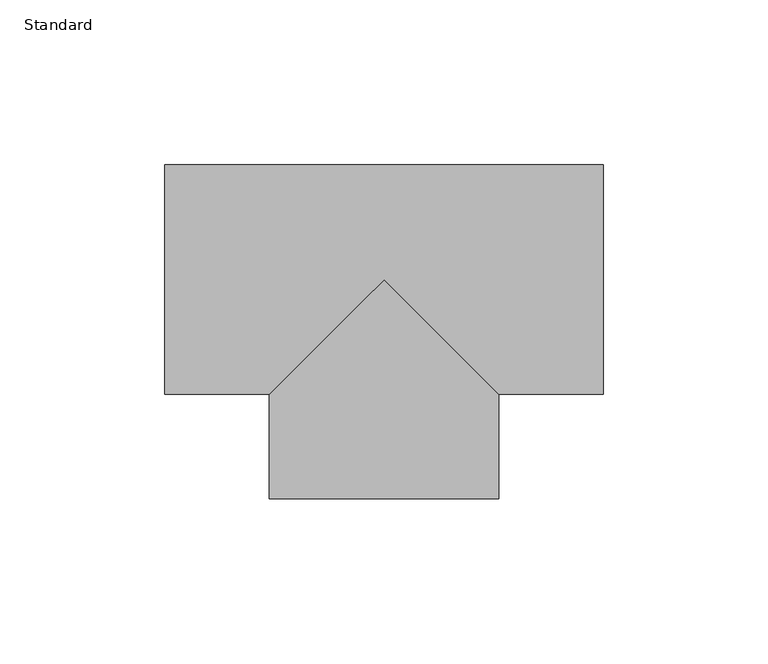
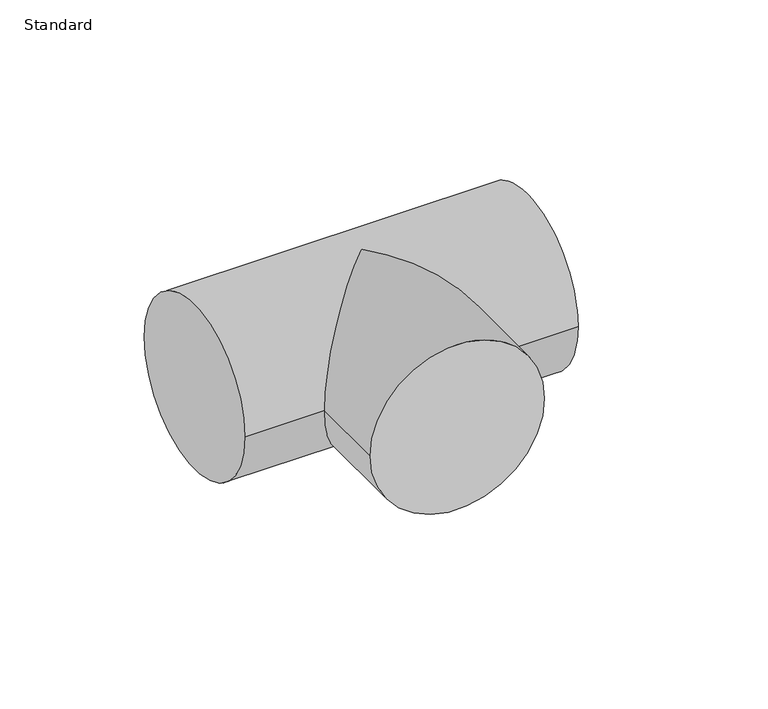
"""IFC4 building model written with IfcOpenShell, lengths in millimetres: pipe fitting geometry, M_Tee - CPVC - Sch 40 : Standard."""

from ifc_helpers import new_model, si_unit, frame, origin, place, context, project, spatial, circle_curve, ellipse_curve, source, transform, mapped, element, save
from ifc_brep_helpers import plane_surface, cylinder_surface, advanced_brep


def standard_cd25fed3(model_context):
    return source(origin(), model_context, "Body", "AdvancedBrep", [
        advanced_brep(
        [(-66.675, -34.925, 0.0), (-66.675, 34.925, 0.0), (66.675, -34.925, 0.0), (66.675, 34.925, 0.0), (-34.925, -34.925, 0.0), (0.0, 0.0, 34.925), (34.925, -34.925, 0.0), (0.0, 0.0, -34.925), (-34.925, -66.675, 0.0), (34.925, -66.675, 0.0)],
        [
            (0, 1, circle_curve(frame((-66.675, 0.0, 0.0), z_axis=(-1.0, 0.0, 0.0), x_axis=(0.0, 1.0, 0.0)), 34.925)),
            (1, 0, circle_curve(frame((-66.675, 0.0, 0.0), z_axis=(-1.0, 0.0, 0.0), x_axis=(0.0, 1.0, 0.0)), 34.925)),
            (2, 3, circle_curve(frame((66.675, 0.0, 0.0), z_axis=(1.0, 0.0, 0.0), x_axis=(0.0, 1.0, 0.0)), 34.925)),
            (3, 2, circle_curve(frame((66.675, 0.0, 0.0), z_axis=(1.0, 0.0, 0.0), x_axis=(0.0, 1.0, 0.0)), 34.925)),
            (0, 4),
            (4, 5, ellipse_curve(frame((0.0, 0.0, 0.0), z_axis=(-0.7071067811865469, 0.7071067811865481, 0.0), x_axis=(-0.707106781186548, -0.7071067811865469, 0.0)), 49.3914087, 34.925)),
            (5, 6, ellipse_curve(frame((0.0, 0.0, 0.0), z_axis=(0.707106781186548, 0.7071067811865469, 0.0), x_axis=(-0.707106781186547, 0.707106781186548, 0.0)), 49.3914087, 34.925)),
            (6, 2),
            (3, 1),
            (6, 7, ellipse_curve(frame((0.0, 0.0, 0.0), z_axis=(0.707106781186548, 0.7071067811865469, 0.0), x_axis=(-0.707106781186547, 0.707106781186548, 0.0)), 49.3914087, 34.925)),
            (7, 4, ellipse_curve(frame((0.0, 0.0, 0.0), z_axis=(-0.7071067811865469, 0.7071067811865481, 0.0), x_axis=(-0.707106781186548, -0.7071067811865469, 0.0)), 49.3914087, 34.925)),
            (8, 9, circle_curve(frame((0.0, -66.675, 0.0), z_axis=(0.0, -1.0, 0.0), x_axis=(1.0, 0.0, 0.0)), 34.925)),
            (9, 8, circle_curve(frame((0.0, -66.675, 0.0), z_axis=(0.0, -1.0, 0.0), x_axis=(1.0, 0.0, 0.0)), 34.925)),
            (9, 6),
            (4, 8),
        ],
        [
            plane_surface(frame((-66.675, 0.0, 0.0), z_axis=(-1.0, 0.0, 0.0), x_axis=(0.0, 0.0, 1.0))),
            plane_surface(frame((66.675, 0.0, 0.0), z_axis=(1.0, 0.0, 0.0), x_axis=(0.0, 0.0, 1.0))),
            cylinder_surface(frame((-66.675, 0.0, 0.0), z_axis=(-1.0, 0.0, 0.0), x_axis=(0.0, 1.0, 0.0)), 34.925),
            plane_surface(frame((0.0, -66.675, 0.0), z_axis=(0.0, -1.0, 0.0), x_axis=(0.0, 0.0, 1.0))),
            cylinder_surface(frame((0.0, 0.0, 0.0), z_axis=(0.0, 1.0, 0.0), x_axis=(1.0, 0.0, 0.0)), 34.925),
        ],
        [
            (0, [[1, 2]]),
            (1, [[3, 4]]),
            (2, [[-1, 5, 6, 7, 8, -4, 9]]),
            (2, [[-2, -9, -3, -8, 10, 11, -5]]),
            (3, [[12, 13]]),
            (4, [[-13, 14, -7, -6, 15]]),
            (4, [[-12, -15, -11, -10, -14]]),
        ],
    ),
    ])


if __name__ == "__main__":
    model = new_model("IFC4")
    model_context = context("Model", 3, world=origin())
    ifc_project = project(units=[si_unit("LENGTHUNIT", "METRE", prefix="MILLI")], contexts=[model_context])
    site = spatial("IfcSite", under=ifc_project)
    building = spatial("IfcBuilding", under=site)
    placement = place(None, origin())
    standard_shape = standard_cd25fed3(model_context)
    element("IfcPipeFitting", 1, ObjectType="M_Tee - CPVC - Sch 40 : Standard", at=placement, inside=building, context=model_context, shape_type="MappedRepresentation", body=[
        mapped(standard_shape, transform((0.0, 0.0, 0.0), x_axis=(1.0, 0.0, 0.0), y_axis=(0.0, 1.0, 0.0), z_axis=(0.0, 0.0, 1.0))),
    ])
    save(model, "model.ifc")
